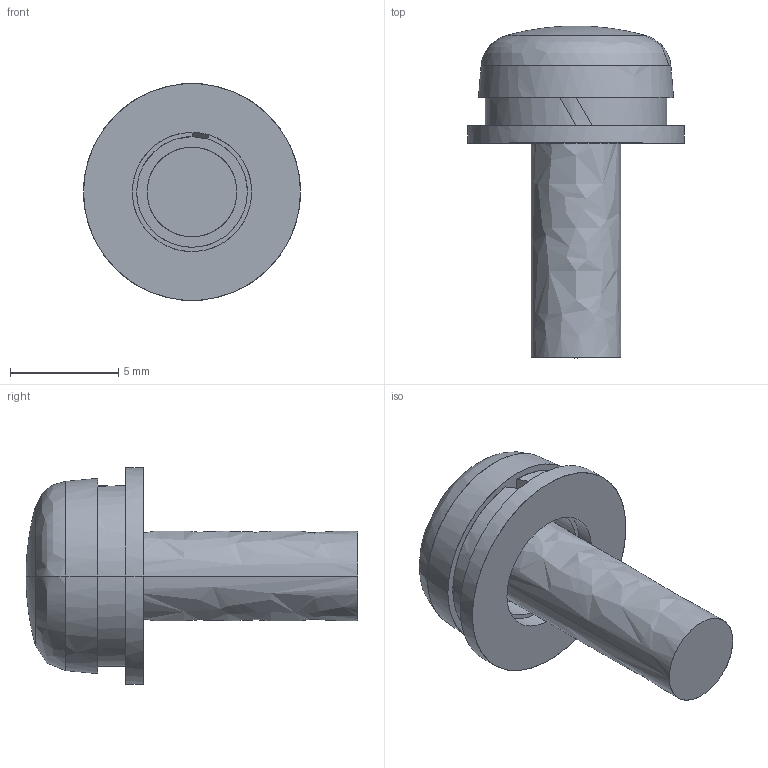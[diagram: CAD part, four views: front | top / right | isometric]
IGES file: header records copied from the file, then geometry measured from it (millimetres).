
Start section:  PTC IGES file: sw-pw-p-na-m5x12.igs
Global section: file name: sw-pw-p-na-m5x12.igs; native system: Creo Parametric by PTC Inc.; preprocessor: 2020184; author: VX25986; organization: Unknown; date: 20210323.200205; units: millimetre
Bounding box: 10 x 15.3 x 9.98 mm (x, y, z)
Surface area: 487.8 mm2 (no closed solid volume)
Topology: 0 solids, 0 shells, 23 faces, 114 edges, 112 vertices
Faces by surface type: bspline 23
